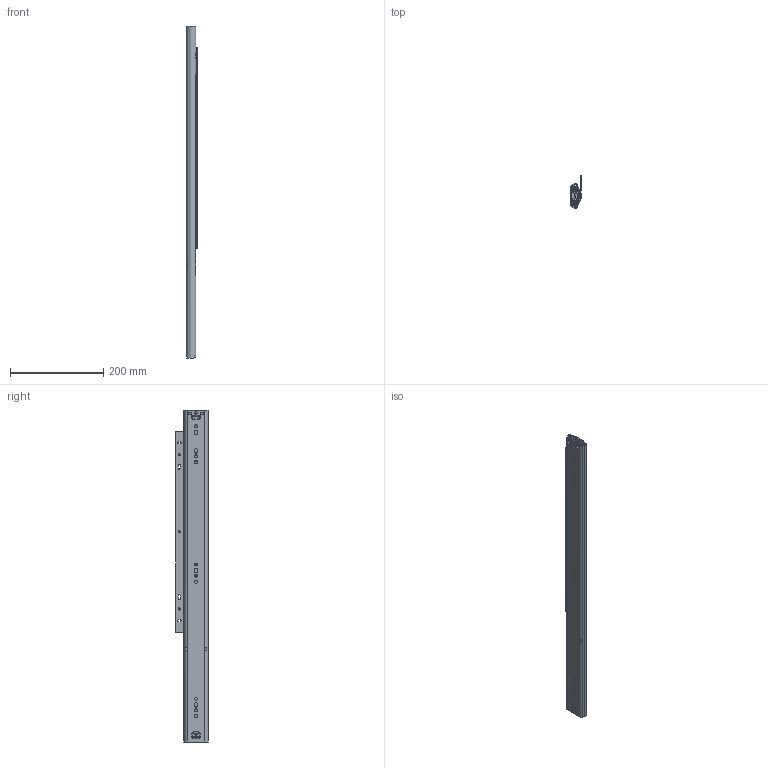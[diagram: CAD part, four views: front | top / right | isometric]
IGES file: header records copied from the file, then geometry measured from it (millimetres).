
Global section: file name: No Iges File Name specified; native system: Autodesk Inventor 2012; preprocessor: AutoDesk Inventor Iges Exporter R2012; author: HV83751; date: 20130708.091716; units: inch
Bounding box: 22.61 x 70.18 x 711.21 mm (x, y, z)
Surface area: 340807.4 mm2
Topology: 6 solids, 39 shells, 1709 faces, 5056 edges, 3262 vertices
Faces by surface type: plane 843, revolution 459, cylinder 346, bspline 52, torus 9
